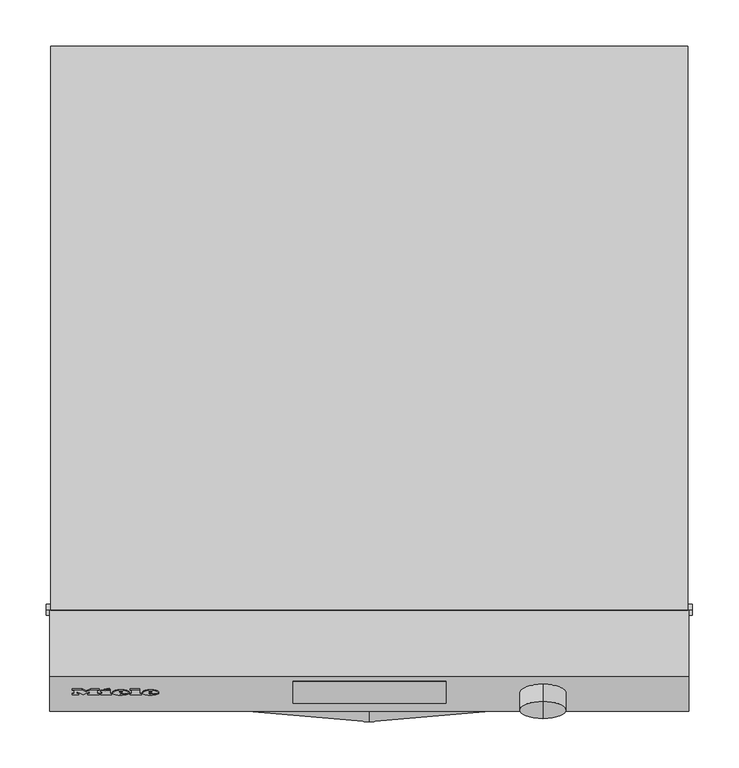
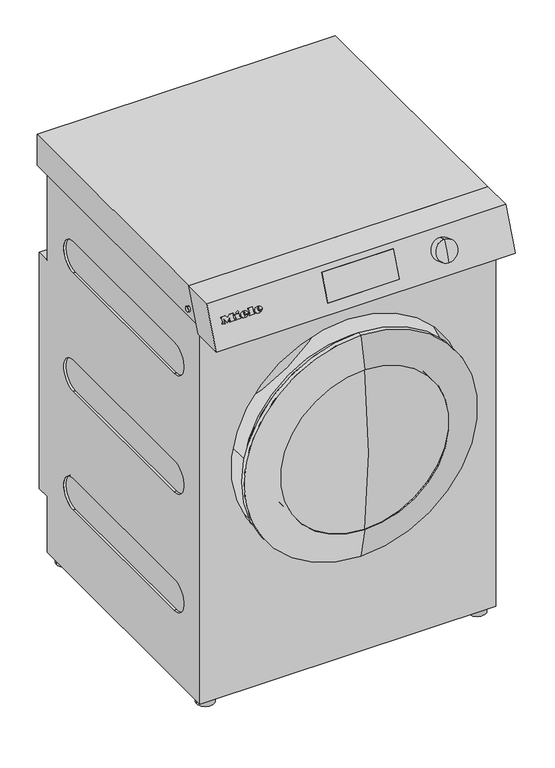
"""IFC4 building model written with IfcOpenShell, lengths in millimetres: proxy geometry, 11924260_EU_PDR510ROPEL_IG : 52510001_EU_11924260_PDR510ROPEL_IG."""

from ifc_helpers import new_model, si_unit, point, frame, frame_2d, origin, origin_with_axes, place, context, project, spatial, polyline, circle_curve, ellipse_curve, trimmed, segment, composite_curve, outline, extrude, faceted_brep, source, transform, mapped, element, save
from ifc_brep_helpers import plane_surface, cylinder_surface, revolved_surface, extruded_surface, advanced_brep


def specialty_equipment_de5fa5e3(model_context):
    return source(origin(), model_context, "Body", "SolidModel", [
        advanced_brep(
        [(-238.2722, -700.6126019, 975.6957235), (-238.2722, -700.0401393, 977.1419447), (-227.9696, -700.0401393, 977.1419447), (-245.8952, -700.0401393, 977.1419447), (-241.6602, -701.9559051, 972.3021154), (-228.2314, -700.6126019, 975.6957235), (-232.8822, -700.6126019, 975.6957235), (-236.5474, -701.2474119, 974.0919931), (-238.2722, -699.3146422, 978.9747795), (-238.2722, -698.6968361, 980.5355529), (-235.6388, -698.6968361, 980.5355529), (-235.6388, -699.3146422, 978.9747795), (-238.2722, -699.6827953, 975.3276751), (-236.5474, -700.3176052, 973.7239446), (-232.8822, -699.6827953, 975.3276751), (-228.2314, -699.6827953, 975.3276751), (-241.6602, -701.0260985, 971.9340669), (-245.8952, -699.1103327, 976.7738963), (-227.9696, -699.1103327, 976.7738963), (-238.2722, -699.1103327, 976.7738963), (-238.2722, -698.3848356, 978.6067311), (-235.6388, -698.3848356, 978.6067311), (-235.6388, -697.7670295, 980.1675045), (-238.2722, -697.7670295, 980.1675045)],
        [
            (0, 1),
            (1, 2),
            (2, 3, ellipse_curve(frame((-236.9324, -700.0401393, 977.1419447), z_axis=(0.0, -0.9298066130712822, 0.36804845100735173), x_axis=(-1.0, 0.0, 0.0)), 8.9628, 7.4074)),
            (3, 4, circle_curve(frame((-239.935316, -699.8474292, 977.6287915), z_axis=(0.0, -0.9298066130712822, 0.36804845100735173), x_axis=(0.0, -0.36804845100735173, -0.9298066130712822)), 5.98284)),
            (4, 5, circle_curve(frame((-237.1118224, -698.3510914, 981.4090133), z_axis=(0.0, -0.9298066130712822, 0.36804845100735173), x_axis=(0.0, -0.36804845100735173, -0.9298066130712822)), 10.7989819)),
            (5, 6),
            (6, 7, circle_curve(frame((-235.7946118, -700.0854829, 977.0273926), z_axis=(0.0, 0.9298066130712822, -0.36804845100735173), x_axis=(0.0, -0.36804845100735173, -0.9298066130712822)), 3.2455106)),
            (7, 0, circle_curve(frame((-236.5474, -700.6126019, 975.6957235), z_axis=(0.0, 0.9298066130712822, -0.36804845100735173), x_axis=(0.0, -0.36804845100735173, -0.9298066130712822)), 1.7248)),
            (8, 9),
            (9, 10, circle_curve(frame((-236.9555, -698.6968361, 980.5355529), z_axis=(0.0, 0.9298066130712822, -0.36804845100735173), x_axis=(0.0, -0.36804845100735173, -0.9298066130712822)), 1.3167)),
            (10, 11),
            (11, 8),
            (12, 13, circle_curve(frame((-236.5474, -699.6827953, 975.3276751), z_axis=(0.0, -0.9298066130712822, 0.36804845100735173), x_axis=(0.0, -0.36804845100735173, -0.9298066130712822)), 1.7248)),
            (13, 14, circle_curve(frame((-235.7946118, -699.1556763, 976.6593441), z_axis=(0.0, -0.9298066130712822, 0.36804845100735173), x_axis=(0.0, -0.36804845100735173, -0.9298066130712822)), 3.2455106)),
            (14, 15),
            (15, 16, circle_curve(frame((-237.1118224, -697.4212848, 981.0409648), z_axis=(0.0, 0.9298066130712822, -0.36804845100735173), x_axis=(0.0, -0.36804845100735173, -0.9298066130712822)), 10.7989819)),
            (16, 17, circle_curve(frame((-239.935316, -698.9176225, 977.260743), z_axis=(0.0, 0.9298066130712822, -0.36804845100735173), x_axis=(0.0, -0.36804845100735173, -0.9298066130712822)), 5.98284)),
            (17, 18, ellipse_curve(frame((-236.9324, -699.1103327, 976.7738963), z_axis=(0.0, 0.9298066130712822, -0.36804845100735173), x_axis=(-1.0, 0.0, 0.0)), 8.9628, 7.4074)),
            (18, 19),
            (19, 12),
            (20, 21),
            (21, 22),
            (22, 23, circle_curve(frame((-236.9555, -697.7670295, 980.1675045), z_axis=(0.0, -0.9298066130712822, 0.36804845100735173), x_axis=(0.0, -0.36804845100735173, -0.9298066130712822)), 1.3167)),
            (23, 20),
            (0, 12),
            (19, 1),
            (18, 2),
            (5, 15),
            (14, 6),
            (17, 3),
            (13, 7),
            (16, 4),
            (8, 20),
            (23, 9),
            (22, 10),
            (21, 11),
        ],
        [
            plane_surface(frame((-238.2722, -700.0401393, 977.1419447), z_axis=(0.0, -0.9298066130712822, 0.36804845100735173), x_axis=(0.0, 0.36804845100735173, 0.9298066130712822))),
            plane_surface(frame((-238.2722, -699.1103327, 976.7738963), z_axis=(0.0, 0.9298066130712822, -0.36804845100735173), x_axis=(0.0, -0.36804845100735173, -0.9298066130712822))),
            plane_surface(frame((-238.2722, -700.6126019, 975.6957235), z_axis=(1.0, 0.0, 0.0), x_axis=(0.0, 0.9298066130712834, -0.3680484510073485))),
            plane_surface(frame((-238.2722, -700.0401393, 977.1419447), z_axis=(0.0, -0.3680484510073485, -0.9298066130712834), x_axis=(0.0, 0.9298066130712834, -0.3680484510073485))),
            plane_surface(frame((-228.2314, -700.6126019, 975.6957235), z_axis=(0.0, 0.3680484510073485, 0.9298066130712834), x_axis=(0.0, 0.9298066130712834, -0.3680484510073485))),
            extruded_surface(trimmed(ellipse_curve(frame((-236.9324, -698.1805261, 976.4058478), z_axis=(0.0, -0.9298066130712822, 0.36804845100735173), x_axis=(-1.0, 0.0, 0.0)), 8.9628, 7.4074), [point((-227.9696, -698.1805261, 976.4058478))], [point((-245.8952, -698.1805261, 976.4058478))], True, "CARTESIAN"), (0.0, -0.9298066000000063, 0.3680485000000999), 1.0000000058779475),
            revolved_surface(polyline([(-235.7946118, -700.3501813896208, 973.6416468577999), (-235.7946118, -701.2799880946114, 974.009695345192)]), (-235.7946118, -699.1556763, 976.6593441), (0.0, 0.9298066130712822, -0.36804845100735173)),
            revolved_surface(polyline([(-236.5474, -700.3176051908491, 973.723944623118), (-236.5474, -701.2474118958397, 974.0919931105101)]), (-236.5474, -699.6827953, 975.3276751), (0.0, 0.9298066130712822, -0.36804845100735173)),
            cylinder_surface(frame((-239.935316, -698.9176225, 977.260743), z_axis=(0.0, -0.9298066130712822, 0.36804845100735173), x_axis=(0.0, -0.36804845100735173, -0.9298066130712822)), 5.98284),
            cylinder_surface(frame((-237.1118224, -697.4212848, 981.0409648), z_axis=(0.0, -0.9298066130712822, 0.36804845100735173), x_axis=(0.0, -0.36804845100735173, -0.9298066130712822)), 10.7989819),
            plane_surface(frame((-238.2722, -699.3146422, 978.9747795), z_axis=(1.0, 0.0, 0.0), x_axis=(0.0, 0.9298066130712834, -0.3680484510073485))),
            revolved_surface(polyline([(-236.9555, -698.2516388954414, 978.943228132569), (-236.9555, -699.1814454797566, 979.3112765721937)]), (-236.9555, -697.7670295, 980.1675045), (0.0, 0.9298066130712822, -0.36804845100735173)),
            plane_surface(frame((-235.6388, -698.6968361, 980.5355529), z_axis=(-1.0, 0.0, 0.0), x_axis=(0.0, 0.9298066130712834, -0.3680484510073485))),
            plane_surface(frame((-235.6388, -699.3146422, 978.9747795), z_axis=(0.0, 0.3680484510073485, 0.9298066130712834), x_axis=(0.0, 0.9298066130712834, -0.3680484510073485))),
        ],
        [
            (0, [[1, 2, 3, 4, 5, 6, 7, 8], [9, 10, 11, 12]]),
            (1, [[13, 14, 15, 16, 17, 18, 19, 20], [21, 22, 23, 24]]),
            (2, [[-1, 25, -20, 26]]),
            (3, [[-2, -26, -19, 27]]),
            (4, [[-6, 28, -15, 29]]),
            (5, [[-3, -27, -18, 30]]),
            (6, [[-7, -29, -14, 31]]),
            (7, [[-8, -31, -13, -25]]),
            (8, [[-4, -30, -17, 32]]),
            (9, [[-5, -32, -16, -28]]),
            (10, [[-9, 33, -24, 34]]),
            (11, [[-10, -34, -23, 35]]),
            (12, [[-11, -35, -22, 36]]),
            (13, [[-12, -36, -21, -33]]),
        ],
    ),
        advanced_brep(
        [(-270.412, -700.6126019, 975.6957235), (-270.412, -700.0401393, 977.1419447), (-260.1094, -700.0401393, 977.1419447), (-278.035, -700.0401393, 977.1419447), (-273.8, -701.9559051, 972.3021154), (-260.3712, -700.6126019, 975.6957235), (-265.022, -700.6126019, 975.6957235), (-268.6872, -701.2474119, 974.0919931), (-270.412, -699.3146422, 978.9747795), (-270.412, -698.6968361, 980.5355529), (-267.7786, -698.6968361, 980.5355529), (-267.7786, -699.3146422, 978.9747795), (-270.412, -699.6827953, 975.3276751), (-268.6872, -700.3176052, 973.7239446), (-265.022, -699.6827953, 975.3276751), (-260.3712, -699.6827953, 975.3276751), (-273.8, -701.0260985, 971.9340669), (-278.035, -699.1103327, 976.7738963), (-260.1094, -699.1103327, 976.7738963), (-270.412, -699.1103327, 976.7738963), (-270.412, -698.3848356, 978.6067311), (-267.7786, -698.3848356, 978.6067311), (-267.7786, -697.7670295, 980.1675045), (-270.412, -697.7670295, 980.1675045)],
        [
            (0, 1),
            (1, 2),
            (2, 3, ellipse_curve(frame((-269.0722, -700.0401393, 977.1419447), z_axis=(0.0, -0.9298066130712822, 0.36804845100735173), x_axis=(-1.0, 0.0, 0.0)), 8.9628, 7.4074)),
            (3, 4, circle_curve(frame((-272.075116, -699.8474292, 977.6287915), z_axis=(0.0, -0.9298066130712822, 0.36804845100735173), x_axis=(0.0, -0.36804845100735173, -0.9298066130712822)), 5.98284)),
            (4, 5, circle_curve(frame((-269.2516224, -698.3510914, 981.4090133), z_axis=(0.0, -0.9298066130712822, 0.36804845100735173), x_axis=(0.0, -0.36804845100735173, -0.9298066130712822)), 10.7989819)),
            (5, 6),
            (6, 7, circle_curve(frame((-267.9344118, -700.0854829, 977.0273926), z_axis=(0.0, 0.9298066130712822, -0.36804845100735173), x_axis=(0.0, -0.36804845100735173, -0.9298066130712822)), 3.2455106)),
            (7, 0, circle_curve(frame((-268.6872, -700.6126019, 975.6957235), z_axis=(0.0, 0.9298066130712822, -0.36804845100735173), x_axis=(0.0, -0.36804845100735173, -0.9298066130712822)), 1.7248)),
            (8, 9),
            (9, 10, circle_curve(frame((-269.0953, -698.6968361, 980.5355529), z_axis=(0.0, 0.9298066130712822, -0.36804845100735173), x_axis=(0.0, -0.36804845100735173, -0.9298066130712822)), 1.3167)),
            (10, 11),
            (11, 8),
            (12, 13, circle_curve(frame((-268.6872, -699.6827953, 975.3276751), z_axis=(0.0, -0.9298066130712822, 0.36804845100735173), x_axis=(0.0, -0.36804845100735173, -0.9298066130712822)), 1.7248)),
            (13, 14, circle_curve(frame((-267.9344118, -699.1556763, 976.6593441), z_axis=(0.0, -0.9298066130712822, 0.36804845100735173), x_axis=(0.0, -0.36804845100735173, -0.9298066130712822)), 3.2455106)),
            (14, 15),
            (15, 16, circle_curve(frame((-269.2516224, -697.4212848, 981.0409648), z_axis=(0.0, 0.9298066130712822, -0.36804845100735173), x_axis=(0.0, -0.36804845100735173, -0.9298066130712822)), 10.7989819)),
            (16, 17, circle_curve(frame((-272.075116, -698.9176225, 977.260743), z_axis=(0.0, 0.9298066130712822, -0.36804845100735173), x_axis=(0.0, -0.36804845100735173, -0.9298066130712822)), 5.98284)),
            (17, 18, ellipse_curve(frame((-269.0722, -699.1103327, 976.7738963), z_axis=(0.0, 0.9298066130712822, -0.36804845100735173), x_axis=(-1.0, 0.0, 0.0)), 8.9628, 7.4074)),
            (18, 19),
            (19, 12),
            (20, 21),
            (21, 22),
            (22, 23, circle_curve(frame((-269.0953, -697.7670295, 980.1675045), z_axis=(0.0, -0.9298066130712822, 0.36804845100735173), x_axis=(0.0, -0.36804845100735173, -0.9298066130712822)), 1.3167)),
            (23, 20),
            (0, 12),
            (19, 1),
            (18, 2),
            (5, 15),
            (14, 6),
            (17, 3),
            (13, 7),
            (16, 4),
            (8, 20),
            (23, 9),
            (22, 10),
            (21, 11),
        ],
        [
            plane_surface(frame((-270.412, -700.0401393, 977.1419447), z_axis=(0.0, -0.9298066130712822, 0.36804845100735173), x_axis=(0.0, 0.36804845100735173, 0.9298066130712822))),
            plane_surface(frame((-270.412, -699.1103327, 976.7738963), z_axis=(0.0, 0.9298066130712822, -0.36804845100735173), x_axis=(0.0, -0.36804845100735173, -0.9298066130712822))),
            plane_surface(frame((-270.412, -700.6126019, 975.6957235), z_axis=(1.0, 0.0, 0.0), x_axis=(0.0, 0.9298066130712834, -0.3680484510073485))),
            plane_surface(frame((-270.412, -700.0401393, 977.1419447), z_axis=(0.0, -0.3680484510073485, -0.9298066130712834), x_axis=(0.0, 0.9298066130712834, -0.3680484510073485))),
            plane_surface(frame((-260.3712, -700.6126019, 975.6957235), z_axis=(0.0, 0.3680484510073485, 0.9298066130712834), x_axis=(0.0, 0.9298066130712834, -0.3680484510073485))),
            extruded_surface(trimmed(ellipse_curve(frame((-269.0722, -698.1805261, 976.4058478), z_axis=(0.0, -0.9298066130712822, 0.36804845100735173), x_axis=(-1.0, 0.0, 0.0)), 8.9628, 7.4074), [point((-260.1094, -698.1805261, 976.4058478))], [point((-278.035, -698.1805261, 976.4058478))], True, "CARTESIAN"), (0.0, -0.9298066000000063, 0.3680485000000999), 1.0000000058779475),
            revolved_surface(polyline([(-267.9344118, -700.3501813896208, 973.6416468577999), (-267.9344118, -701.2799880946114, 974.009695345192)]), (-267.9344118, -699.1556763, 976.6593441), (0.0, 0.9298066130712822, -0.36804845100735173)),
            revolved_surface(polyline([(-268.6872, -700.3176051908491, 973.723944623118), (-268.6872, -701.2474118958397, 974.0919931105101)]), (-268.6872, -699.6827953, 975.3276751), (0.0, 0.9298066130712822, -0.36804845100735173)),
            cylinder_surface(frame((-272.075116, -698.9176225, 977.260743), z_axis=(0.0, -0.9298066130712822, 0.36804845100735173), x_axis=(0.0, -0.36804845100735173, -0.9298066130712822)), 5.98284),
            cylinder_surface(frame((-269.2516224, -697.4212848, 981.0409648), z_axis=(0.0, -0.9298066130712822, 0.36804845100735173), x_axis=(0.0, -0.36804845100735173, -0.9298066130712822)), 10.7989819),
            plane_surface(frame((-270.412, -699.3146422, 978.9747795), z_axis=(1.0, 0.0, 0.0), x_axis=(0.0, 0.9298066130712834, -0.3680484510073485))),
            revolved_surface(polyline([(-269.0953, -698.2516388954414, 978.943228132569), (-269.0953, -699.1814454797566, 979.3112765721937)]), (-269.0953, -697.7670295, 980.1675045), (0.0, 0.9298066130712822, -0.36804845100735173)),
            plane_surface(frame((-267.7786, -698.6968361, 980.5355529), z_axis=(-1.0, 0.0, 0.0), x_axis=(0.0, 0.9298066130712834, -0.3680484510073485))),
            plane_surface(frame((-267.7786, -699.3146422, 978.9747795), z_axis=(0.0, 0.3680484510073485, 0.9298066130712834), x_axis=(0.0, 0.9298066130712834, -0.3680484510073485))),
        ],
        [
            (0, [[1, 2, 3, 4, 5, 6, 7, 8], [9, 10, 11, 12]]),
            (1, [[13, 14, 15, 16, 17, 18, 19, 20], [21, 22, 23, 24]]),
            (2, [[-1, 25, -20, 26]]),
            (3, [[-2, -26, -19, 27]]),
            (4, [[-6, 28, -15, 29]]),
            (5, [[-3, -27, -18, 30]]),
            (6, [[-7, -29, -14, 31]]),
            (7, [[-8, -31, -13, -25]]),
            (8, [[-4, -30, -17, 32]]),
            (9, [[-5, -32, -16, -28]]),
            (10, [[-9, 33, -24, 34]]),
            (11, [[-10, -34, -23, 35]]),
            (12, [[-11, -35, -22, 36]]),
            (13, [[-12, -36, -21, -33]]),
        ],
    ),
        extrude(outline(polyline([(0.0, 0.0), (-0.0209991, -5.7737091), (-2.7701549, -5.7597671), (-2.7556966, 0.0), (0.0, 0.0)])), frame((-287.2442, -695.6925612, 985.4082665), z_axis=(0.0, -0.9298066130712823, 0.3680484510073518), x_axis=(-0.4247202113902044, 0.33320333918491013, 0.8417768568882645)), (0.0, 0.0, 1.0), 1.0),
        extrude(outline(polyline([(-0.9497773, 4.6471612), (-5.3516625, -4.7358047), (-13.5635003, -0.8833376), (-14.3222205, -2.5006095), (-16.6644765, -1.4017734), (-11.5038711, 9.5984644), (-9.1616151, 8.4996283), (-9.9399574, 6.8405303), (-4.2237375, 4.1588469), (-3.4453952, 5.8179449), (-0.9497773, 4.6471612)])), frame((-287.2442, -695.6925612, 985.4082665), z_axis=(0.0, -0.9298066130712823, 0.3680484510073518), x_axis=(-0.4247202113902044, 0.33320333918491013, 0.8417768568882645)), (0.0, 0.0, 1.0), 1.0),
        extrude(outline(polyline([(0.0, 0.0), (0.0, -2.5102), (-10.5952, -2.5102), (-10.5952, 10.3026), (-12.4894, 10.3026), (-12.4894, 12.8898), (0.0, 12.8898), (0.0, 10.3026), (-1.848, 10.3026), (-1.848, 0.0), (0.0, 0.0)])), frame((-259.247, -696.2820276, 983.9190882), z_axis=(0.0, -0.9298066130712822, 0.36804845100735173), x_axis=(-1.0, 0.0, 0.0)), (0.0, 0.0, 1.0), 1.0),
        extrude(outline(polyline([(0.0, 0.0), (0.0, -2.5102), (-10.7338, -2.5102), (-15.246, 3.2648), (-19.7428, -2.5102), (-29.1214, -2.5102), (-29.1214, 0.0), (-27.1656, 0.0), (-27.1656, 10.3026), (-29.1214, 10.3026), (-29.1214, 12.8898), (-16.8322, 12.8898), (-16.8322, 10.3026), (-18.7264, 10.3026), (-18.7264, 3.7307777), (-11.8118, 12.8898), (-4.928, 3.7988752), (-4.928, 10.3026), (-6.776, 10.3026), (-6.776, 12.8898), (0.0, 12.8898), (0.0, 10.3026), (-1.8634, 10.3026), (-1.8634, 0.0), (0.0, 0.0)])), frame((-321.7402, -696.2820276, 983.9190882), z_axis=(0.0, -0.9298066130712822, 0.36804845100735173), x_axis=(-1.0, 0.0, 0.0)), (0.0, 0.0, 1.0), 1.0),
        extrude(outline(polyline([(-639.7145833, 946.7), (-711.0145833, 946.7), (-687.0666667, 1007.2), (-615.7666667, 1007.2), (-639.7145833, 946.7)])), frame((-82.85, 0.0, 0.0), z_axis=(1.0, 0.0, 0.0), x_axis=(0.0, 1.0, 0.0)), (0.0, 0.0, 1.0), 165.7),
        faceted_brep([(346.0, -610.7, 1020.0), (346.0, -682.0, 1020.0), (346.0, -720.0, 924.0), (346.0, -648.7, 924.0), (-346.0, -610.7, 1020.0), (-346.0, -648.7, 924.0), (-346.0, -720.0, 924.0), (-346.0, -682.0, 1020.0), (-82.85, -687.0666667, 1007.2), (82.85, -687.0666667, 1007.2), (82.85, -711.0145833, 946.7), (-82.85, -711.0145833, 946.7), (82.85, -615.7666667, 1007.2), (-82.85, -615.7666667, 1007.2), (-82.85, -639.7145833, 946.7), (82.85, -639.7145833, 946.7)], [[[0, 1, 2, 3]], [[4, 5, 6, 7]], [[1, 0, 4, 7]], [[2, 1, 7, 6], [8, 9, 10, 11]], [[3, 2, 6, 5]], [[0, 3, 5, 4], [12, 13, 14, 15]], [[12, 9, 8, 13]], [[13, 8, 11, 14]], [[14, 11, 10, 15]], [[9, 12, 15, 10]]]),
        advanced_brep(
        [(188.0, -727.5986435, 960.8180789), (188.0, -709.1924159, 1007.3069032), (188.0, -690.5968862, 999.9444121), (188.0, -709.0031138, 953.4555879), (188.0, -718.9636109, 984.2874103), (188.0, -699.8, 976.7)],
        [
            (0, 1, circle_curve(frame((188.0, -718.3955297, 984.0624911), z_axis=(0.0, 0.9297764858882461, -0.36812455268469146), x_axis=(0.0, 0.36812455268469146, 0.9297764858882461)), 25.0)),
            (1, 2),
            (2, 3, circle_curve(frame((188.0, -699.8, 976.7), z_axis=(0.0, -0.9297764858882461, 0.36812455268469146), x_axis=(0.0, 0.36812455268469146, 0.9297764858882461)), 25.0)),
            (3, 0),
            (1, 0, circle_curve(frame((188.0, -718.3955297, 984.0624911), z_axis=(0.0, 0.9297764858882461, -0.36812455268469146), x_axis=(0.0, 0.36812455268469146, 0.9297764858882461)), 25.0)),
            (3, 2, circle_curve(frame((188.0, -699.8, 976.7), z_axis=(0.0, -0.9297764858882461, 0.36812455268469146), x_axis=(0.0, 0.36812455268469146, 0.9297764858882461)), 25.0)),
            (4, 1),
            (0, 4),
            (2, 5),
            (5, 3),
        ],
        [
            cylinder_surface(frame((188.0, -699.8, 976.7), z_axis=(0.0, -0.9297764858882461, 0.36812455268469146), x_axis=(0.0, 0.36812455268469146, 0.9297764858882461)), 25.0),
            revolved_surface(polyline([(188.0, -709.1924159, 1007.3069032), (188.0, -718.9636109, 984.2874103)]), (188.0, -699.8, 976.7), (0.0, -0.9297764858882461, 0.36812455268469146)),
            plane_surface(frame((188.0, -699.8, 976.7), z_axis=(0.0, 0.9297764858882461, -0.36812455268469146), x_axis=(0.0, 0.36812455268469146, 0.9297764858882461))),
        ],
        [
            (0, [[1, 2, 3, 4]]),
            (0, [[5, -4, 6, -2]]),
            (1, [[7, -1, 8]]),
            (1, [[-8, -5, -7]]),
            (2, [[-3, 9, 10]]),
            (2, [[-6, -10, -9]]),
        ],
    ),
        extrude(outline(polyline([(0.0, 943.8), (-640.9, 943.8), (-610.7, 1020.0), (0.0, 1020.0), (0.0, 943.8)])), frame((-345.0, 0.0, 0.0), z_axis=(1.0, 0.0, 0.0), x_axis=(0.0, 1.0, 0.0)), (0.0, 0.0, 1.0), 690.0),
        extrude(outline(composite_curve([segment(trimmed(circle_curve(frame_2d((-610.0, 963.8)), 6.0), [point((-610.0, 957.8))], [point((-610.0, 969.8))], False, "CARTESIAN"), True, "CONTINUOUS"), segment(trimmed(circle_curve(frame_2d((-610.0, 963.8)), 6.0), [point((-610.0, 969.8))], [point((-610.0, 957.8))], False, "CARTESIAN"), True, "CONTINUOUS")], self_intersect=False)), frame((-350.0, 0.0, 0.0), z_axis=(1.0, 0.0, 0.0), x_axis=(0.0, 1.0, 0.0)), (0.0, 0.0, 1.0), 5.0),
        extrude(outline(composite_curve([segment(trimmed(circle_curve(frame_2d((-610.0, 963.8)), 6.0), [point((-610.0, 957.8))], [point((-610.0, 969.8))], False, "CARTESIAN"), True, "CONTINUOUS"), segment(trimmed(circle_curve(frame_2d((-610.0, 963.8)), 6.0), [point((-610.0, 969.8))], [point((-610.0, 957.8))], False, "CARTESIAN"), True, "CONTINUOUS")], self_intersect=False)), frame((345.0, 0.0, 0.0), z_axis=(1.0, 0.0, 0.0), x_axis=(0.0, 1.0, 0.0)), (0.0, 0.0, 1.0), 5.0),
        advanced_brep(
        [(-0.6181593, -731.0, 562.28215), (-0.6181593, -714.5357304, 758.08215), (-0.6181593, -714.5357304, 366.48215), (-0.6181593, -655.0, 366.48215), (-0.6181593, -655.0, 758.08215), (-0.6181593, -655.0, 562.28215)],
        [
            (0, 1, circle_curve(frame((-0.6181593, 441.5, 562.28215), z_axis=(-1.0, 0.0, 0.0), x_axis=(0.0, 1.0, 0.0)), 1172.5)),
            (1, 2, circle_curve(frame((-0.6181593, -714.5357304, 562.28215), z_axis=(0.0, -1.0, 0.0), x_axis=(0.0, 0.0, 1.0)), 195.8)),
            (2, 0, circle_curve(frame((-0.6181593, 441.5, 562.28215), z_axis=(-1.0, 0.0, 0.0), x_axis=(0.0, 1.0, 0.0)), 1172.5)),
            (2, 1, circle_curve(frame((-0.6181593, -714.5357304, 562.28215), z_axis=(0.0, -1.0, 0.0), x_axis=(0.0, 0.0, 1.0)), 195.8)),
            (3, 4, circle_curve(frame((-0.6181593, -655.0, 562.28215), z_axis=(0.0, 1.0, 0.0), x_axis=(0.0, 0.0, 1.0)), 195.8)),
            (4, 5),
            (5, 3),
            (4, 3, circle_curve(frame((-0.6181593, -655.0, 562.28215), z_axis=(0.0, 1.0, 0.0), x_axis=(0.0, 0.0, 1.0)), 195.8)),
            (1, 4),
            (3, 2),
        ],
        [
            revolved_surface(trimmed(ellipse_curve(frame((-0.6181593, 441.5, 562.28215), z_axis=(1.0, 0.0, 0.0), x_axis=(0.0, 1.0, 0.0)), 1172.5, 1172.5), [point((-0.6181593, -714.5357304, 758.08215))], [point((-0.6181593, -731.0, 562.28215))], True, "CARTESIAN"), (-0.6181593, -1133.7365177, 562.28215), (0.0, -1.0, 0.0)),
            plane_surface(frame((-0.6181593, -655.0, 562.28215), z_axis=(0.0, 1.0, 0.0), x_axis=(0.0, 0.0, 1.0))),
            cylinder_surface(frame((-0.6181593, -1133.7365177, 562.28215), z_axis=(0.0, -1.0, 0.0), x_axis=(0.0, 0.0, 1.0)), 195.8),
        ],
        [
            (0, [[1, 2, 3]]),
            (0, [[-3, 4, -1]]),
            (1, [[5, 6, 7]]),
            (1, [[8, -7, -6]]),
            (2, [[-2, 9, -5, 10]]),
            (2, [[-4, -10, -8, -9]]),
        ],
    ),
        advanced_brep(
        [(-0.6181593, -655.0, 327.28215), (-0.6181593, -655.0, 797.28215), (-0.6181593, -655.0, 758.08215), (-0.6181593, -655.0, 366.48215), (-0.6181593, -661.5, 315.18215), (-0.6181593, -661.5, 809.38215), (-0.6181593, -690.7, 292.28215), (-0.6181593, -690.7, 832.28215), (-0.6181593, -700.5, 292.28215), (-0.6181593, -700.5, 832.28215), (-0.6181593, -717.25, 366.48215), (-0.6181593, -717.25, 758.08215)],
        [
            (0, 1, circle_curve(frame((-0.6181593, -655.0, 562.28215), z_axis=(0.0, 1.0, 0.0), x_axis=(0.0, 0.0, 1.0)), 235.0)),
            (1, 2),
            (2, 3, circle_curve(frame((-0.6181593, -655.0, 562.28215), z_axis=(0.0, -1.0, 0.0), x_axis=(0.0, 0.0, 1.0)), 195.8)),
            (3, 0),
            (1, 0, circle_curve(frame((-0.6181593, -655.0, 562.28215), z_axis=(0.0, 1.0, 0.0), x_axis=(0.0, 0.0, 1.0)), 235.0)),
            (3, 2, circle_curve(frame((-0.6181593, -655.0, 562.28215), z_axis=(0.0, -1.0, 0.0), x_axis=(0.0, 0.0, 1.0)), 195.8)),
            (4, 5, circle_curve(frame((-0.6181593, -661.5, 562.28215), z_axis=(0.0, 1.0, 0.0), x_axis=(0.0, 0.0, 1.0)), 247.1)),
            (5, 1),
            (0, 4),
            (5, 4, circle_curve(frame((-0.6181593, -661.5, 562.28215), z_axis=(0.0, 1.0, 0.0), x_axis=(0.0, 0.0, 1.0)), 247.1)),
            (6, 7, circle_curve(frame((-0.6181593, -690.7, 562.28215), z_axis=(0.0, 1.0, 0.0), x_axis=(0.0, 0.0, 1.0)), 270.0)),
            (7, 5),
            (4, 6),
            (7, 6, circle_curve(frame((-0.6181593, -690.7, 562.28215), z_axis=(0.0, 1.0, 0.0), x_axis=(0.0, 0.0, 1.0)), 270.0)),
            (8, 9, circle_curve(frame((-0.6181593, -700.5, 562.28215), z_axis=(0.0, 1.0, 0.0), x_axis=(0.0, 0.0, 1.0)), 270.0)),
            (9, 7),
            (6, 8),
            (9, 8, circle_curve(frame((-0.6181593, -700.5, 562.28215), z_axis=(0.0, 1.0, 0.0), x_axis=(0.0, 0.0, 1.0)), 270.0)),
            (10, 11, circle_curve(frame((-0.6181593, -717.25, 562.28215), z_axis=(0.0, 1.0, 0.0), x_axis=(0.0, 0.0, 1.0)), 195.8)),
            (11, 9),
            (8, 10),
            (11, 10, circle_curve(frame((-0.6181593, -717.25, 562.28215), z_axis=(0.0, 1.0, 0.0), x_axis=(0.0, 0.0, 1.0)), 195.8)),
            (2, 11),
            (10, 3),
        ],
        [
            plane_surface(frame((-0.6181593, -655.0, 562.28215), z_axis=(0.0, 1.0, 0.0), x_axis=(0.0, 0.0, 1.0))),
            revolved_surface(polyline([(-0.6181593, -655.0, 797.28215), (-0.6181593, -661.5, 809.38215)]), (-0.6181593, -1133.7365177, 562.28215), (0.0, -1.0, 0.0)),
            revolved_surface(polyline([(-0.6181593, -661.5, 809.38215), (-0.6181593, -690.7, 832.28215)]), (-0.6181593, -1133.7365177, 562.28215), (0.0, -1.0, 0.0)),
            cylinder_surface(frame((-0.6181593, -1133.7365177, 562.28215), z_axis=(0.0, -1.0, 0.0), x_axis=(0.0, 0.0, 1.0)), 270.0),
            revolved_surface(polyline([(-0.6181593, -700.5, 832.28215), (-0.6181593, -717.25, 758.08215)]), (-0.6181593, -1133.7365177, 562.28215), (0.0, -1.0, 0.0)),
            revolved_surface(polyline([(-0.6181593, -717.25, 758.08215), (-0.6181593, -655.0, 758.08215)]), (-0.6181593, -1133.7365177, 562.28215), (0.0, -1.0, 0.0)),
        ],
        [
            (0, [[1, 2, 3, 4]]),
            (0, [[5, -4, 6, -2]]),
            (1, [[7, 8, -1, 9]]),
            (1, [[10, -9, -5, -8]]),
            (2, [[11, 12, -7, 13]]),
            (2, [[14, -13, -10, -12]]),
            (3, [[15, 16, -11, 17]]),
            (3, [[18, -17, -14, -16]]),
            (4, [[19, 20, -15, 21]]),
            (4, [[22, -21, -18, -20]]),
            (5, [[-3, 23, -19, 24]]),
            (5, [[-6, -24, -22, -23]]),
        ],
    ),
        extrude(outline(polyline([(240.6772603, -32.7), (233.3, -32.7), (233.3, -31.4442961), (239.4215564, -31.4442961), (239.4215564, -28.1480734), (233.770889, -28.1480734), (233.770889, -26.8923696), (239.4215564, -26.8923696), (239.4215564, -23.9100729), (233.456963, -23.9100729), (233.456963, -22.654369), (240.6772603, -22.654369), (240.6772603, -32.7)])), frame((0.0, 0.0, 779.0), z_axis=(0.0, 0.0, 1.0), x_axis=(1.0, 0.0, 0.0)), (0.0, 0.0, 1.0), 1.0),
        extrude(outline(polyline([(231.4164442, -32.7), (225.1379248, -32.7), (225.1379248, -31.4442961), (230.1607403, -31.4442961), (230.1607403, -22.654369), (231.4164442, -22.654369), (231.4164442, -32.7)])), frame((0.0, 0.0, 779.0), z_axis=(0.0, 0.0, 1.0), x_axis=(1.0, 0.0, 0.0)), (0.0, 0.0, 1.0), 1.0),
        extrude(outline(composite_curve([segment(trimmed(circle_curve(frame_2d((233.3, -27.7)), 7.5), [point((225.8, -27.7))], [point((240.8, -27.7))], False, "CARTESIAN"), True, "CONTINUOUS"), segment(trimmed(circle_curve(frame_2d((233.3, -27.7)), 7.5), [point((240.8, -27.7))], [point((225.8, -27.7))], False, "CARTESIAN"), True, "CONTINUOUS")], self_intersect=False)), frame((0.0, 0.0, 780.0), z_axis=(0.0, 0.0, 1.0), x_axis=(1.0, 0.0, 0.0)), (0.0, 0.0, 1.0), 30.0),
        extrude(outline(polyline([(-36.0, 810.0), (-36.0, 890.8), (-11.2, 863.0), (-11.2, 810.0), (-36.0, 810.0)])), frame((197.0, 0.0, 0.0), z_axis=(1.0, 0.0, 0.0), x_axis=(0.0, 1.0, 0.0)), (0.0, 0.0, 1.0), 76.0),
        extrude(outline(polyline([(85.0, -189.952875), (95.045631, -193.9627887), (95.045631, -195.0320991), (85.0, -199.0420128), (85.0, -197.7151851), (88.1392597, -196.5649407), (88.1392597, -192.4274945), (85.0, -191.2797027), (85.0, -189.952875)]), holes=[polyline([(89.3949636, -192.8885733), (89.3949636, -196.1063145), (91.864678, -195.2013248), (93.7899271, -194.4974439), (92.0805021, -193.8720445), (89.3949636, -192.8885733)])]), frame((0.0, -6.0, 0.0), z_axis=(0.0, 1.0, 0.0), x_axis=(0.0, 0.0, 1.0)), (0.0, 0.0, 1.0), 1.0),
        extrude(outline(polyline([(85.0, -200.3835558), (95.045631, -200.3835558), (95.045631, -201.6392597), (86.2557039, -201.6392597), (86.2557039, -206.6620752), (85.0, -206.6620752), (85.0, -200.3835558)])), frame((0.0, -6.0, 0.0), z_axis=(0.0, 1.0, 0.0), x_axis=(0.0, 0.0, 1.0)), (0.0, 0.0, 1.0), 1.0),
        extrude(outline(composite_curve([segment(trimmed(circle_curve(frame_2d((90.0, -198.5)), 57.5), [point((32.5, -198.5))], [point((147.5, -198.5))], False, "CARTESIAN"), True, "CONTINUOUS"), segment(trimmed(circle_curve(frame_2d((90.0, -198.5)), 57.5), [point((147.5, -198.5))], [point((32.5, -198.5))], False, "CARTESIAN"), True, "CONTINUOUS")], self_intersect=False)), frame((0.0, -36.0, 0.0), z_axis=(0.0, 1.0, 0.0), x_axis=(0.0, 0.0, 1.0)), (0.0, 0.0, 1.0), 30.0),
        extrude(outline(composite_curve([segment(trimmed(circle_curve(frame_2d((-314.5, -60.1)), 20.0), [point((-334.5, -60.1))], [point((-294.5, -60.1))], False, "CARTESIAN"), True, "CONTINUOUS"), segment(trimmed(circle_curve(frame_2d((-314.5, -60.1)), 20.0), [point((-294.5, -60.1))], [point((-334.5, -60.1))], False, "CARTESIAN"), True, "CONTINUOUS")], self_intersect=False)), origin_with_axes(), (0.0, 0.0, 1.0), 18.2),
        extrude(outline(composite_curve([segment(trimmed(circle_curve(frame_2d((314.5, -60.1)), 20.0), [point((294.5, -60.1))], [point((334.5, -60.1))], False, "CARTESIAN"), True, "CONTINUOUS"), segment(trimmed(circle_curve(frame_2d((314.5, -60.1)), 20.0), [point((334.5, -60.1))], [point((294.5, -60.1))], False, "CARTESIAN"), True, "CONTINUOUS")], self_intersect=False)), origin_with_axes(), (0.0, 0.0, 1.0), 18.2),
        extrude(outline(composite_curve([segment(trimmed(circle_curve(frame_2d((314.5, -621.3)), 20.0), [point((294.5, -621.3))], [point((334.5, -621.3))], False, "CARTESIAN"), True, "CONTINUOUS"), segment(trimmed(circle_curve(frame_2d((314.5, -621.3)), 20.0), [point((334.5, -621.3))], [point((294.5, -621.3))], False, "CARTESIAN"), True, "CONTINUOUS")], self_intersect=False)), origin_with_axes(), (0.0, 0.0, 1.0), 18.2),
        extrude(outline(composite_curve([segment(trimmed(circle_curve(frame_2d((-314.5, -621.3)), 20.0), [point((-334.5, -621.3))], [point((-294.5, -621.3))], False, "CARTESIAN"), True, "CONTINUOUS"), segment(trimmed(circle_curve(frame_2d((-314.5, -621.3)), 20.0), [point((-294.5, -621.3))], [point((-334.5, -621.3))], False, "CARTESIAN"), True, "CONTINUOUS")], self_intersect=False)), origin_with_axes(), (0.0, 0.0, 1.0), 18.2),
        advanced_brep(
        [(-342.5, -648.7, 18.2), (342.5, -648.7, 18.2), (342.5, -648.7, 924.0), (-342.5, -648.7, 924.0), (0.0, -648.7, 299.8), (0.0, -648.7, 839.8), (342.5, -5.0, 733.5), (342.5, -5.0, 433.0), (149.5, -5.0, 433.0), (-80.0, -5.0, 155.0), (-342.5, -5.0, 155.0), (-342.5, -5.0, 733.5), (-151.0, -5.0, 733.5), (-151.0, -5.0, 943.8), (149.5, -5.0, 943.8), (149.5, -5.0, 733.5), (-342.5, -640.9, 943.8), (342.5, -640.9, 943.8), (342.5, -36.0, 943.8), (149.5, -36.0, 943.8), (-151.0, -36.0, 943.8), (-342.5, -36.0, 943.8), (-342.5, -36.0, 733.5), (-342.5, -36.0, 155.0), (-342.5, -36.0, 18.2), (-342.5, -141.0, 841.5708469), (-342.5, -546.0, 841.5708469), (-342.5, -546.0, 765.5708469), (-342.5, -141.0, 765.5708469), (-342.5, -141.0, 551.8), (-342.5, -546.0, 551.8), (-342.5, -546.0, 475.8), (-342.5, -141.0, 475.8), (-342.5, -141.0, 261.8), (-342.5, -546.0, 261.8), (-342.5, -546.0, 185.8), (-342.5, -141.0, 185.8), (342.5, -36.0, 18.2), (342.5, -36.0, 433.0), (342.5, -36.0, 733.5), (342.5, -548.1, 841.5708469), (342.5, -141.0, 841.5708469), (342.5, -141.0, 765.5708469), (342.5, -548.1, 765.5708469), (342.5, -548.1, 551.8), (342.5, -141.0, 551.8), (342.5, -141.0, 475.8), (342.5, -548.1, 475.8), (342.5, -548.1, 261.8), (342.5, -141.0, 261.8), (342.5, -141.0, 185.8), (342.5, -548.1, 185.8), (0.0, -74.7, 245.4), (0.0, -74.7, 569.8), (0.0, -74.7, 894.2), (0.0, -583.4, 894.2), (0.0, -583.4, 245.4), (0.0, -583.4, 839.8), (0.0, -583.4, 299.8), (-151.0, -36.0, 733.5), (149.5, -36.0, 733.5), (-80.0, -36.0, 155.0), (149.5, -36.0, 433.0), (-337.3, -141.0, 841.5708469), (-337.3, -546.0, 841.5708469), (-337.3, -141.0, 551.8), (-337.3, -546.0, 551.8), (337.3, -548.1, 551.8), (337.3, -141.0, 551.8), (337.3, -548.1, 261.8), (337.3, -141.0, 261.8), (-337.3, -141.0, 765.5708469), (-337.3, -546.0, 765.5708469), (-337.3, -141.0, 475.8), (-337.3, -546.0, 475.8), (-337.3, -546.0, 261.8), (-337.3, -141.0, 261.8), (-337.3, -141.0, 185.8), (-337.3, -546.0, 185.8), (337.3, -548.1, 841.5708469), (337.3, -548.1, 765.5708469), (337.3, -141.0, 765.5708469), (337.3, -141.0, 841.5708469), (337.3, -548.1, 475.8), (337.3, -141.0, 475.8), (337.3, -548.1, 185.8), (337.3, -141.0, 185.8)],
        [
            (0, 1),
            (1, 2),
            (2, 3),
            (3, 0),
            (4, 5, circle_curve(frame((0.0, -648.7, 569.8), z_axis=(0.0, 1.0, 0.0), x_axis=(0.0, 0.0, 1.0)), 270.0)),
            (5, 4, circle_curve(frame((0.0, -648.7, 569.8), z_axis=(0.0, 1.0, 0.0), x_axis=(0.0, 0.0, 1.0)), 270.0)),
            (6, 7),
            (7, 8),
            (8, 9),
            (9, 10),
            (10, 11),
            (11, 12),
            (12, 13),
            (13, 14),
            (14, 15),
            (15, 6),
            (16, 17),
            (17, 18),
            (18, 19),
            (19, 14),
            (13, 20),
            (20, 21),
            (21, 16),
            (3, 16),
            (21, 22),
            (22, 11),
            (10, 23),
            (23, 24),
            (24, 0),
            (25, 26),
            (26, 27, circle_curve(frame((-342.5, -546.0, 803.5708469), z_axis=(1.0, 0.0, 0.0), x_axis=(0.0, 0.0, -1.0)), 38.0)),
            (27, 28),
            (28, 25, circle_curve(frame((-342.5, -141.0, 803.5708469), z_axis=(1.0, 0.0, 0.0), x_axis=(0.0, 0.0, -1.0)), 38.0)),
            (29, 30),
            (30, 31, circle_curve(frame((-342.5, -546.0, 513.8), z_axis=(1.0, 0.0, 0.0), x_axis=(0.0, 0.0, -1.0)), 38.0)),
            (31, 32),
            (32, 29, circle_curve(frame((-342.5, -141.0, 513.8), z_axis=(1.0, 0.0, 0.0), x_axis=(0.0, 0.0, -1.0)), 38.0)),
            (33, 34),
            (34, 35, circle_curve(frame((-342.5, -546.0, 223.8), z_axis=(1.0, 0.0, 0.0), x_axis=(0.0, 0.0, -1.0)), 38.0)),
            (35, 36),
            (36, 33, circle_curve(frame((-342.5, -141.0, 223.8), z_axis=(1.0, 0.0, 0.0), x_axis=(0.0, 0.0, -1.0)), 38.0)),
            (24, 37),
            (37, 1),
            (37, 38),
            (38, 7),
            (6, 39),
            (39, 18),
            (17, 2),
            (40, 41),
            (41, 42, circle_curve(frame((342.5, -141.0, 803.5708469), z_axis=(-1.0, 0.0, 0.0), x_axis=(0.0, 0.0, -1.0)), 38.0)),
            (42, 43),
            (43, 40, circle_curve(frame((342.5, -548.1, 803.5708469), z_axis=(-1.0, 0.0, 0.0), x_axis=(0.0, 0.0, -1.0)), 38.0)),
            (44, 45),
            (45, 46, circle_curve(frame((342.5, -141.0, 513.8), z_axis=(-1.0, 0.0, 0.0), x_axis=(0.0, 0.0, -1.0)), 38.0)),
            (46, 47),
            (47, 44, circle_curve(frame((342.5, -548.1, 513.8), z_axis=(-1.0, 0.0, 0.0), x_axis=(0.0, 0.0, -1.0)), 38.0)),
            (48, 49),
            (49, 50, circle_curve(frame((342.5, -141.0, 223.8), z_axis=(-1.0, 0.0, 0.0), x_axis=(0.0, 0.0, -1.0)), 38.0)),
            (50, 51),
            (51, 48, circle_curve(frame((342.5, -548.1, 223.8), z_axis=(-1.0, 0.0, 0.0), x_axis=(0.0, 0.0, -1.0)), 38.0)),
            (52, 53),
            (53, 54),
            (54, 52, circle_curve(frame((0.0, -74.7, 569.8), z_axis=(0.0, -1.0, 0.0), x_axis=(0.0, 0.0, 1.0)), 324.4)),
            (52, 54, circle_curve(frame((0.0, -74.7, 569.8), z_axis=(0.0, -1.0, 0.0), x_axis=(0.0, 0.0, 1.0)), 324.4)),
            (54, 55),
            (55, 56, circle_curve(frame((0.0, -583.4, 569.8), z_axis=(0.0, -1.0, 0.0), x_axis=(0.0, 0.0, 1.0)), 324.4)),
            (56, 52),
            (56, 55, circle_curve(frame((0.0, -583.4, 569.8), z_axis=(0.0, -1.0, 0.0), x_axis=(0.0, 0.0, 1.0)), 324.4)),
            (55, 57),
            (57, 58, circle_curve(frame((0.0, -583.4, 569.8), z_axis=(0.0, -1.0, 0.0), x_axis=(0.0, 0.0, 1.0)), 270.0)),
            (58, 56),
            (58, 57, circle_curve(frame((0.0, -583.4, 569.8), z_axis=(0.0, -1.0, 0.0), x_axis=(0.0, 0.0, 1.0)), 270.0)),
            (57, 5),
            (4, 58),
            (59, 22),
            (20, 59),
            (39, 60),
            (60, 19),
            (23, 61),
            (61, 62),
            (62, 38),
            (59, 12),
            (60, 15),
            (62, 8),
            (61, 9),
            (63, 64),
            (64, 26),
            (25, 63),
            (65, 66),
            (66, 30),
            (29, 65),
            (67, 68),
            (68, 45),
            (44, 67),
            (69, 70),
            (70, 49),
            (48, 69),
            (63, 71, circle_curve(frame((-337.3, -141.0, 803.5708469), z_axis=(-1.0, 0.0, 0.0), x_axis=(0.0, 0.0, -1.0)), 38.0)),
            (71, 72),
            (72, 64, circle_curve(frame((-337.3, -546.0, 803.5708469), z_axis=(-1.0, 0.0, 0.0), x_axis=(0.0, 0.0, -1.0)), 38.0)),
            (65, 73, circle_curve(frame((-337.3, -141.0, 513.8), z_axis=(-1.0, 0.0, 0.0), x_axis=(0.0, 0.0, -1.0)), 38.0)),
            (73, 74),
            (74, 66, circle_curve(frame((-337.3, -546.0, 513.8), z_axis=(-1.0, 0.0, 0.0), x_axis=(0.0, 0.0, -1.0)), 38.0)),
            (75, 76),
            (76, 77, circle_curve(frame((-337.3, -141.0, 223.8), z_axis=(-1.0, 0.0, 0.0), x_axis=(0.0, 0.0, -1.0)), 38.0)),
            (77, 78),
            (78, 75, circle_curve(frame((-337.3, -546.0, 223.8), z_axis=(-1.0, 0.0, 0.0), x_axis=(0.0, 0.0, -1.0)), 38.0)),
            (28, 71),
            (27, 72),
            (32, 73),
            (31, 74),
            (75, 34),
            (33, 76),
            (36, 77),
            (35, 78),
            (79, 80, circle_curve(frame((337.3, -548.1, 803.5708469), z_axis=(1.0, 0.0, 0.0), x_axis=(0.0, 0.0, -1.0)), 38.0)),
            (80, 81),
            (81, 82, circle_curve(frame((337.3, -141.0, 803.5708469), z_axis=(1.0, 0.0, 0.0), x_axis=(0.0, 0.0, -1.0)), 38.0)),
            (82, 79),
            (67, 83, circle_curve(frame((337.3, -548.1, 513.8), z_axis=(1.0, 0.0, 0.0), x_axis=(0.0, 0.0, -1.0)), 38.0)),
            (83, 84),
            (84, 68, circle_curve(frame((337.3, -141.0, 513.8), z_axis=(1.0, 0.0, 0.0), x_axis=(0.0, 0.0, -1.0)), 38.0)),
            (69, 85, circle_curve(frame((337.3, -548.1, 223.8), z_axis=(1.0, 0.0, 0.0), x_axis=(0.0, 0.0, -1.0)), 38.0)),
            (85, 86),
            (86, 70, circle_curve(frame((337.3, -141.0, 223.8), z_axis=(1.0, 0.0, 0.0), x_axis=(0.0, 0.0, -1.0)), 38.0)),
            (82, 41),
            (40, 79),
            (81, 42),
            (80, 43),
            (84, 46),
            (83, 47),
            (86, 50),
            (85, 51),
        ],
        [
            plane_surface(frame((-342.5, -648.7, 943.8), z_axis=(0.0, -1.0, 0.0), x_axis=(-1.0, 0.0, 0.0))),
            plane_surface(frame((-342.5, -5.0, 943.8), z_axis=(0.0, 1.0, 0.0), x_axis=(1.0, 0.0, 0.0))),
            plane_surface(frame((342.5, -648.7, 943.8), z_axis=(0.0, 0.0, 1.0), x_axis=(0.0, 1.0, 0.0))),
            plane_surface(frame((-342.5, -648.7, 943.8), z_axis=(-1.0, 0.0, 0.0), x_axis=(0.0, 1.0, 0.0))),
            plane_surface(frame((-342.5, -648.7, 18.2), z_axis=(0.0, 0.0, -1.0), x_axis=(0.0, 1.0, 0.0))),
            plane_surface(frame((342.5, -648.7, 18.2), z_axis=(1.0, 0.0, 0.0), x_axis=(0.0, 1.0, 0.0))),
            plane_surface(frame((0.0, -74.7, 569.8), z_axis=(0.0, -1.0, 0.0), x_axis=(0.0, 0.0, 1.0))),
            revolved_surface(polyline([(0.0, -583.4, 894.1999999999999), (0.0, -74.70000000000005, 894.1999999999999)]), (0.0, -777.4462454, 569.8), (0.0, -1.0, 0.0)),
            plane_surface(frame((0.0, -583.4, 569.8), z_axis=(0.0, 1.0, 0.0), x_axis=(0.0, 0.0, 1.0))),
            revolved_surface(polyline([(0.0, -648.7, 839.8), (0.0, -583.4, 839.8)]), (0.0, -777.4462454, 569.8), (0.0, -1.0, 0.0)),
            plane_surface(frame((-342.5, -640.9, 943.8), z_axis=(0.0, -0.9304083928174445, 0.36652451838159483), x_axis=(1.0, 0.0, 0.0))),
            plane_surface(frame((-151.0, -36.0, 733.5), z_axis=(0.0, 1.0, 0.0), x_axis=(1.0, 0.0, 0.0))),
            plane_surface(frame((-342.5, -36.0, 733.5), z_axis=(0.0, 0.0, 1.0), x_axis=(0.0, 1.0, 0.0))),
            plane_surface(frame((-151.0, -36.0, 733.5), z_axis=(-1.0, 0.0, 0.0), x_axis=(0.0, 1.0, 0.0))),
            plane_surface(frame((149.5, -36.0, 1020.0), z_axis=(1.0, 0.0, 0.0), x_axis=(0.0, 1.0, 0.0))),
            plane_surface(frame((149.5, -36.0, 733.5), z_axis=(0.0, 0.0, 1.0), x_axis=(0.0, 1.0, 0.0))),
            plane_surface(frame((342.5, -36.0, 433.0), z_axis=(0.0, 0.0, -1.0), x_axis=(0.0, 1.0, 0.0))),
            plane_surface(frame((149.5, -36.0, 433.0), z_axis=(0.7711689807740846, 0.0, -0.636630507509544), x_axis=(0.0, 1.0, 0.0))),
            plane_surface(frame((-80.0, -36.0, 155.0), z_axis=(0.0, 0.0, -1.0), x_axis=(0.0, 1.0, 0.0))),
            plane_surface(frame((-337.3, -141.0, 841.5708469), z_axis=(0.0, 0.0, -1.0), x_axis=(-1.0, 0.0, 0.0))),
            plane_surface(frame((-337.3, -141.0, 551.8), z_axis=(0.0, 0.0, -1.0), x_axis=(-1.0, 0.0, 0.0))),
            plane_surface(frame((337.3, -548.1, 551.8), z_axis=(0.0, 0.0, -1.0), x_axis=(1.0, 0.0, 0.0))),
            plane_surface(frame((337.3, -548.1, 261.8), z_axis=(0.0, 0.0, -1.0), x_axis=(1.0, 0.0, 0.0))),
            plane_surface(frame((-337.3, -546.0, 765.5708469), z_axis=(-1.0, 0.0, 0.0), x_axis=(0.0, 1.0, 0.0))),
            revolved_surface(polyline([(-337.3, -141.0, 765.5708469), (-342.5, -141.0, 765.5708469)]), (-809.0117344, -141.0, 803.5708469), (1.0, 0.0, 0.0)),
            plane_surface(frame((-337.3, -546.0, 765.5708469), z_axis=(0.0, 0.0, 1.0), x_axis=(-1.0, 0.0, 0.0))),
            revolved_surface(polyline([(-337.29999999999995, -141.0, 475.79999999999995), (-342.5, -141.0, 475.79999999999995)]), (-1042.3, -141.0, 513.8), (1.0, 0.0, 0.0)),
            plane_surface(frame((-337.3, -546.0, 475.8), z_axis=(0.0, 0.0, 1.0), x_axis=(-1.0, 0.0, 0.0))),
            plane_surface(frame((-337.3, -141.0, 261.8), z_axis=(0.0, 0.0, -1.0), x_axis=(-1.0, 0.0, 0.0))),
            revolved_surface(polyline([(-337.29999999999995, -141.0, 185.8), (-342.5, -141.0, 185.8)]), (-1042.3, -141.0, 223.8), (1.0, 0.0, 0.0)),
            plane_surface(frame((-337.3, -546.0, 185.8), z_axis=(0.0, 0.0, 1.0), x_axis=(-1.0, 0.0, 0.0))),
            revolved_surface(polyline([(-337.3, -546.0, 765.5708469), (-342.5, -546.0, 765.5708469)]), (-809.0117344, -546.0, 803.5708469), (1.0, 0.0, 0.0)),
            revolved_surface(polyline([(-337.29999999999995, -546.0, 475.79999999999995), (-342.5, -546.0, 475.79999999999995)]), (-1042.3, -546.0, 513.8), (1.0, 0.0, 0.0)),
            revolved_surface(polyline([(-337.29999999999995, -546.0, 185.8), (-342.5, -546.0, 185.8)]), (-1042.3, -546.0, 223.8), (1.0, 0.0, 0.0)),
            plane_surface(frame((337.3, -141.0, 841.5708469), z_axis=(1.0, 0.0, 0.0), x_axis=(0.0, 1.0, 0.0))),
            plane_surface(frame((337.3, -548.1, 841.5708469), z_axis=(0.0, 0.0, -1.0), x_axis=(1.0, 0.0, 0.0))),
            revolved_surface(polyline([(337.3, -141.0, 765.5708469), (342.5, -141.0, 765.5708469)]), (809.0117344, -141.0, 803.5708469), (-1.0, 0.0, 0.0)),
            plane_surface(frame((337.3, -141.0, 765.5708469), z_axis=(0.0, 0.0, 1.0), x_axis=(1.0, 0.0, 0.0))),
            revolved_surface(polyline([(337.3, -548.1, 765.5708469), (342.5, -548.1, 765.5708469)]), (809.0117344, -548.1, 803.5708469), (-1.0, 0.0, 0.0)),
            revolved_surface(polyline([(337.29999999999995, -141.0, 475.79999999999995), (342.5, -141.0, 475.79999999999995)]), (1042.3, -141.0, 513.8), (-1.0, 0.0, 0.0)),
            plane_surface(frame((337.3, -141.0, 475.8), z_axis=(0.0, 0.0, 1.0), x_axis=(1.0, 0.0, 0.0))),
            revolved_surface(polyline([(337.29999999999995, -548.1, 475.79999999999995), (342.5, -548.1, 475.79999999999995)]), (1042.3, -548.1, 513.8), (-1.0, 0.0, 0.0)),
            revolved_surface(polyline([(337.29999999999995, -141.0, 185.8), (342.5, -141.0, 185.8)]), (1042.3, -141.0, 223.8), (-1.0, 0.0, 0.0)),
            plane_surface(frame((337.3, -141.0, 185.8), z_axis=(0.0, 0.0, 1.0), x_axis=(1.0, 0.0, 0.0))),
            revolved_surface(polyline([(337.29999999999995, -548.1, 185.8), (342.5, -548.1, 185.8)]), (1042.3, -548.1, 223.8), (-1.0, 0.0, 0.0)),
        ],
        [
            (0, [[1, 2, 3, 4], [5, 6]]),
            (1, [[7, 8, 9, 10, 11, 12, 13, 14, 15, 16]]),
            (2, [[17, 18, 19, 20, -14, 21, 22, 23]]),
            (3, [[-4, 24, -23, 25, 26, -11, 27, 28, 29], [30, 31, 32, 33], [34, 35, 36, 37], [38, 39, 40, 41]]),
            (4, [[-1, -29, 42, 43]]),
            (5, [[-2, -43, 44, 45, -7, 46, 47, -18, 48], [49, 50, 51, 52], [53, 54, 55, 56], [57, 58, 59, 60]]),
            (6, [[61, 62, 63]]),
            (6, [[-61, 64, -62]]),
            (7, [[-63, 65, 66, 67]]),
            (7, [[-64, -67, 68, -65]]),
            (8, [[-66, 69, 70, 71]]),
            (8, [[-68, -71, 72, -69]]),
            (9, [[-70, 73, -5, 74]]),
            (9, [[-72, -74, -6, -73]]),
            (10, [[-3, -48, -17, -24]]),
            (11, [[75, -25, -22, 76]]),
            (11, [[77, 78, -19, -47]]),
            (11, [[79, 80, 81, -44, -42, -28]]),
            (12, [[-75, 82, -12, -26]]),
            (13, [[-76, -21, -13, -82]]),
            (14, [[-78, 83, -15, -20]]),
            (15, [[-77, -46, -16, -83]]),
            (16, [[-81, 84, -8, -45]]),
            (17, [[-80, 85, -9, -84]]),
            (18, [[-79, -27, -10, -85]]),
            (19, [[86, 87, -30, 88]]),
            (20, [[89, 90, -34, 91]]),
            (21, [[92, 93, -53, 94]]),
            (22, [[95, 96, -57, 97]]),
            (23, [[-86, 98, 99, 100]]),
            (23, [[-89, 101, 102, 103]]),
            (23, [[104, 105, 106, 107]]),
            (24, [[-98, -88, -33, 108]]),
            (25, [[-99, -108, -32, 109]]),
            (26, [[-101, -91, -37, 110]]),
            (27, [[-102, -110, -36, 111]]),
            (28, [[-104, 112, -38, 113]]),
            (29, [[-105, -113, -41, 114]]),
            (30, [[-106, -114, -40, 115]]),
            (31, [[-100, -109, -31, -87]]),
            (32, [[-103, -111, -35, -90]]),
            (33, [[-107, -115, -39, -112]]),
            (34, [[116, 117, 118, 119]]),
            (34, [[120, 121, 122, -92]]),
            (34, [[123, 124, 125, -95]]),
            (35, [[-119, 126, -49, 127]]),
            (36, [[-118, 128, -50, -126]]),
            (37, [[-117, 129, -51, -128]]),
            (38, [[-116, -127, -52, -129]]),
            (39, [[-122, 130, -54, -93]]),
            (40, [[-121, 131, -55, -130]]),
            (41, [[-120, -94, -56, -131]]),
            (42, [[-125, 132, -58, -96]]),
            (43, [[-124, 133, -59, -132]]),
            (44, [[-123, -97, -60, -133]]),
        ],
    ),
    ])


if __name__ == "__main__":
    model = new_model("IFC4")
    model_context = context("Model", 3, world=origin())
    ifc_project = project(units=[si_unit("LENGTHUNIT", "METRE", prefix="MILLI")], contexts=[model_context])
    site = spatial("IfcSite", under=ifc_project)
    building = spatial("IfcBuilding", under=site)
    placement = place(None, origin())
    specialty_equipment_shape = specialty_equipment_de5fa5e3(model_context)
    element("IfcBuildingElementProxy", 1, Name="11924260_EU_PDR510ROPEL_IG : 52510001_EU_11924260_PDR510ROPEL_IG", ObjectType="11924260_EU_PDR510ROPEL_IG : 52510001_EU_11924260_PDR510ROPEL_IG", at=placement, inside=building, context=model_context, shape_type="MappedRepresentation", body=[
        mapped(specialty_equipment_shape, transform((0.0, 0.0, 0.0), x_axis=(1.0, 0.0, 0.0), y_axis=(0.0, 1.0, 0.0), z_axis=(0.0, 0.0, 1.0))),
    ])
    save(model, "model.ifc")
